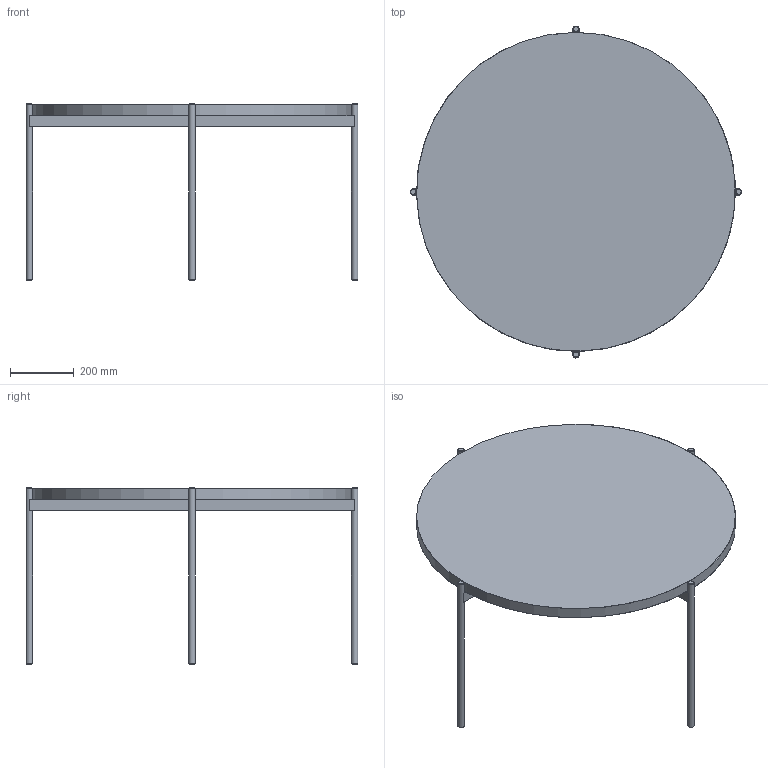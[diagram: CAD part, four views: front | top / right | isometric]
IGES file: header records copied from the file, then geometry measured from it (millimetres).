
Global section: file name: \\server2\Datos\PROYECTOS\2022\DOOS - Stand Feria H; native system: Rhinoceros ( Nov 10 2020 ); preprocessor: Trout Lake IGES 012 Nov 10 2020; date: 220818.060533; units: millimetre
Bounding box: 1040 x 1040 x 552 mm (x, y, z)
Surface area: 2049003.3 mm2 (no closed solid volume)
Topology: 0 solids, 0 shells, 35 faces, 131 edges, 118 vertices
Faces by surface type: bspline 35
